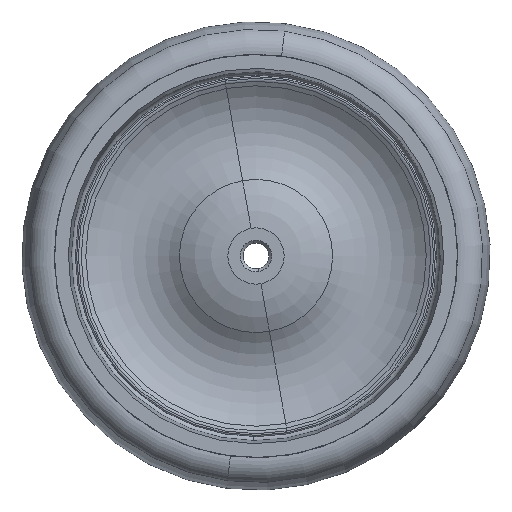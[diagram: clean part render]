
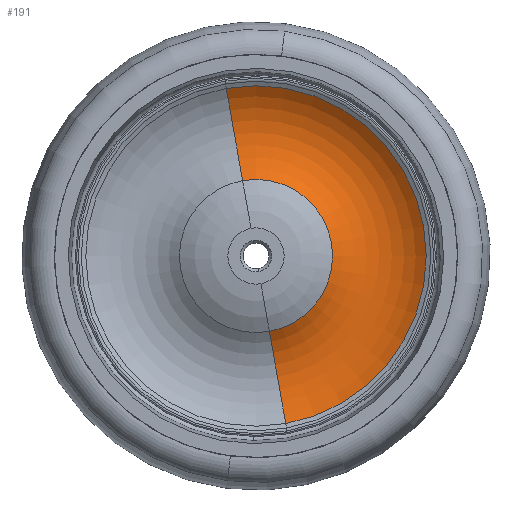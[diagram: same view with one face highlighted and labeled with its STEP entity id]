
A CAD part, front view. The second image highlights one B-rep face of the part: STEP entity #191.
In plain terms, the highlighted toroidal (fillet/blend) face has major radius 39.626 mm and minor radius 24.071 mm.
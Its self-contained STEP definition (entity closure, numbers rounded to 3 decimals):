
#186 = VERTEX_POINT ( 'NONE', #1124 ) ;
#188 = ORIENTED_EDGE ( 'NONE', *, *, #198, .T. ) ;
#190 = EDGE_CURVE ( 'NONE', #245, #247, #1089, .T. ) ;
#191 = ADVANCED_FACE ( 'NONE', ( #1125 ), #965, .F. ) ;
#192 = ORIENTED_EDGE ( 'NONE', *, *, #194, .T. ) ;
#193 = ORIENTED_EDGE ( 'NONE', *, *, #190, .F. ) ;
#194 = EDGE_CURVE ( 'NONE', #245, #253, #950, .T. ) ;
#196 = ORIENTED_EDGE ( 'NONE', *, *, #197, .F. ) ;
#197 = EDGE_CURVE ( 'NONE', #247, #186, #942, .T. ) ;
#198 = EDGE_CURVE ( 'NONE', #253, #186, #960, .T. ) ;
#245 = VERTEX_POINT ( 'NONE', #1061 ) ;
#247 = VERTEX_POINT ( 'NONE', #1051 ) ;
#253 = VERTEX_POINT ( 'NONE', #1054 ) ;
#265 = EDGE_LOOP ( 'NONE', ( #193, #192, #188, #196 ) ) ;
#938 = DIRECTION ( 'NONE',  ( 0.985, 0., 0.175 ) ) ;
#939 = AXIS2_PLACEMENT_3D ( 'NONE', #946, #938, #998 ) ;
#941 = CARTESIAN_POINT ( 'NONE',  ( -93.362, 12.394, -16.774 ) ) ;
#942 = CIRCLE ( 'NONE', #939, 24.071 ) ;
#943 = DIRECTION ( 'NONE',  ( -0.175, 0., 0.985 ) ) ;
#944 = DIRECTION ( 'NONE',  ( -0.985, 0., -0.175 ) ) ;
#945 = CARTESIAN_POINT ( 'NONE',  ( -100.289, -6.311, 22.241 ) ) ;
#946 = CARTESIAN_POINT ( 'NONE',  ( -86.435, -6.311, -55.79 ) ) ;
#948 = AXIS2_PLACEMENT_3D ( 'NONE', #945, #944, #943 ) ;
#949 = DIRECTION ( 'NONE',  ( 0.175, 0., -0.985 ) ) ;
#950 = CIRCLE ( 'NONE', #948, 24.071 ) ;
#951 = DIRECTION ( 'NONE',  ( 0.175, 0., -0.985 ) ) ;
#952 = DIRECTION ( 'NONE',  ( 0., 1., 0. ) ) ;
#953 = DIRECTION ( 'NONE',  ( 0., 1., 0. ) ) ;
#954 = CARTESIAN_POINT ( 'NONE',  ( -93.362, -6.311, -16.774 ) ) ;
#955 = CARTESIAN_POINT ( 'NONE',  ( -93.362, 12.672, -16.774 ) ) ;
#959 = AXIS2_PLACEMENT_3D ( 'NONE', #954, #953, #949 ) ;
#960 = CIRCLE ( 'NONE', #1012, 24.475 ) ;
#965 = TOROIDAL_SURFACE ( 'NONE', #959, 39.626, 24.071 ) ;
#966 = AXIS2_PLACEMENT_3D ( 'NONE', #955, #952, #951 ) ;
#995 = DIRECTION ( 'NONE',  ( 0.175, 0., -0.985 ) ) ;
#996 = DIRECTION ( 'NONE',  ( 0., 1., 0. ) ) ;
#998 = DIRECTION ( 'NONE',  ( 0.175, 0., -0.985 ) ) ;
#1012 = AXIS2_PLACEMENT_3D ( 'NONE', #941, #996, #995 ) ;
#1051 = CARTESIAN_POINT ( 'NONE',  ( -83.848, 12.672, -70.363 ) ) ;
#1054 = CARTESIAN_POINT ( 'NONE',  ( -97.641, 12.394, 7.324 ) ) ;
#1061 = CARTESIAN_POINT ( 'NONE',  ( -102.877, 12.672, 36.815 ) ) ;
#1089 = CIRCLE ( 'NONE', #966, 54.427 ) ;
#1124 = CARTESIAN_POINT ( 'NONE',  ( -89.084, 12.394, -40.872 ) ) ;
#1125 = FACE_OUTER_BOUND ( 'NONE', #265, .T. ) ;
